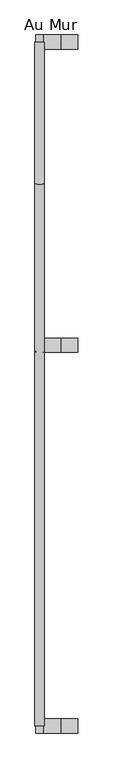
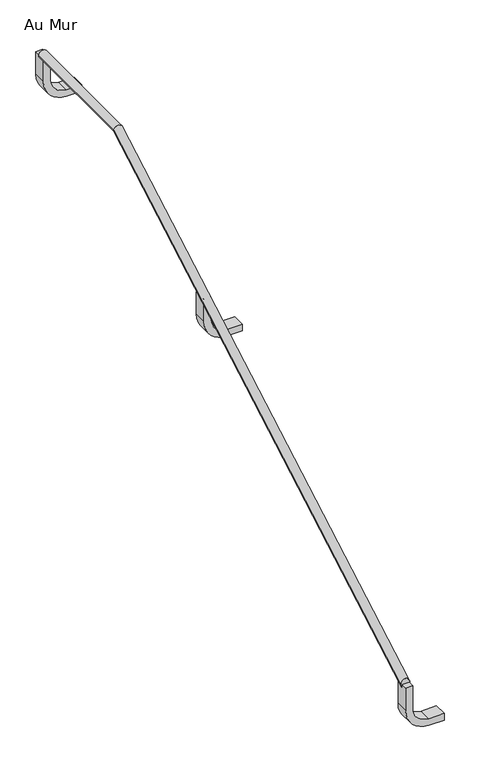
"""IFC4 building model written with IfcOpenShell, lengths in millimetres: railing geometry, Au Mur."""

from ifc_helpers import new_model, si_unit, point, frame, frame_2d, origin, place, context, project, spatial, polyline, circle_curve, ellipse_curve, trimmed, segment, composite_curve, outline, extrude, source, transform, mapped, element, save
from ifc_brep_helpers import plane_surface, cylinder_surface, advanced_brep


def au_mur_6df926ba(model_context):
    return source(origin(), model_context, "Body", "SolidModel", [
        advanced_brep(
        [(11893.2466393, 1042.0685723, 3208.5714286), (11913.2466393, 1042.0685723, 3208.5714286), (11893.2466393, 2182.0685723, 3860.0), (11913.2466393, 2182.0685723, 3860.0), (11893.2466393, 2479.124191, 3860.0), (11913.2466393, 2479.124191, 3860.0)],
        [
            (0, 1, ellipse_curve(frame((11903.2466393, 1042.0685723, 3208.5714286), z_axis=(0.0, -1.0, 0.0), x_axis=(0.0, 0.0, -1.0)), 11.5175111, 10.0)),
            (1, 0, ellipse_curve(frame((11903.2466393, 1042.0685723, 3208.5714286), z_axis=(0.0, -1.0, 0.0), x_axis=(0.0, 0.0, -1.0)), 11.5175111, 10.0)),
            (0, 2),
            (2, 3, ellipse_curve(frame((11903.2466393, 2182.0685723, 3860.0), z_axis=(0.0, -0.9664996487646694, -0.2566679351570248), x_axis=(0.0, 0.256667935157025, -0.9664996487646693)), 10.3466152, 10.0)),
            (3, 1),
            (3, 2, ellipse_curve(frame((11903.2466393, 2182.0685723, 3860.0), z_axis=(0.0, -0.9664996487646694, -0.2566679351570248), x_axis=(0.0, 0.256667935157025, -0.9664996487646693)), 10.3466152, 10.0)),
            (4, 5, circle_curve(frame((11903.2466393, 2479.124191, 3860.0), z_axis=(0.0, 1.0, 0.0), x_axis=(1.0, 0.0, 0.0)), 10.0)),
            (5, 4, circle_curve(frame((11903.2466393, 2479.124191, 3860.0), z_axis=(0.0, 1.0, 0.0), x_axis=(1.0, 0.0, 0.0)), 10.0)),
            (2, 4),
            (5, 3),
        ],
        [
            plane_surface(frame((11903.2466393, 1042.0685723, 3208.5714286), z_axis=(0.0, -1.0, 0.0), x_axis=(0.0, 0.0, 1.0))),
            cylinder_surface(frame((11903.2466393, 1042.0685723, 3208.5714286), z_axis=(0.0, -0.8682431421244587, -0.4961389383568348), x_axis=(1.0, 0.0, 0.0)), 10.0),
            plane_surface(frame((11903.2466393, 2479.124191, 3860.0), z_axis=(0.0, 1.0, 0.0), x_axis=(0.0, 0.0, 1.0))),
            cylinder_surface(frame((11903.2466393, 2182.0685723, 3860.0), z_axis=(0.0, -1.0, 0.0), x_axis=(1.0, 0.0, 0.0)), 10.0),
        ],
        [
            (0, [[1, 2]]),
            (1, [[-1, 3, 4, 5]]),
            (1, [[-2, -5, 6, -3]]),
            (2, [[7, 8]]),
            (3, [[-4, 9, -8, 10]]),
            (3, [[-6, -10, -7, -9]]),
        ],
    ),
        extrude(outline(composite_curve([segment(polyline([(3557.7142857, 11983.2466393), (3573.7142857, 11983.2466393), (3573.7142857, 11948.2466393)]), True, "CONTINUOUS"), segment(trimmed(circle_curve(frame_2d((3610.7142857, 11948.2466393)), 37.0), [point((3573.7142857, 11948.2466393))], [point((3610.7142857, 11911.2466393))], True, "CARTESIAN"), True, "CONTINUOUS"), segment(polyline([(3610.7142857, 11911.2466393), (3665.7142857, 11911.2466393), (3665.7142857, 11895.2466393), (3610.7142857, 11895.2466393)]), True, "CONTINUOUS"), segment(trimmed(circle_curve(frame_2d((3610.7142857, 11948.2466393)), 53.0), [point((3610.7142857, 11895.2466393))], [point((3557.7142857, 11948.2466393))], False, "CARTESIAN"), True, "CONTINUOUS"), segment(polyline([(3557.7142857, 11948.2466393), (3557.7142857, 11983.2466393)]), True, "CONTINUOUS")], self_intersect=False)), frame((0.0, 1827.0685723, 0.0), z_axis=(0.0, 1.0, 0.0), x_axis=(0.0, 0.0, 1.0)), (0.0, 0.0, 1.0), 30.0),
        extrude(outline(composite_curve([segment(polyline([(3752.0, 11983.2466393), (3768.0, 11983.2466393), (3768.0, 11948.2466393)]), True, "CONTINUOUS"), segment(trimmed(circle_curve(frame_2d((3805.0, 11948.2466393)), 37.0), [point((3768.0, 11948.2466393))], [point((3805.0, 11911.2466393))], True, "CARTESIAN"), True, "CONTINUOUS"), segment(polyline([(3805.0, 11911.2466393), (3860.0, 11911.2466393), (3860.0, 11895.2466393), (3805.0, 11895.2466393)]), True, "CONTINUOUS"), segment(trimmed(circle_curve(frame_2d((3805.0, 11948.2466393)), 53.0), [point((3805.0, 11895.2466393))], [point((3752.0, 11948.2466393))], False, "CARTESIAN"), True, "CONTINUOUS"), segment(polyline([(3752.0, 11948.2466393), (3752.0, 11983.2466393)]), True, "CONTINUOUS")], self_intersect=False)), frame((0.0, 2464.124191, 0.0), z_axis=(0.0, 1.0, 0.0), x_axis=(0.0, 0.0, 1.0)), (0.0, 0.0, 1.0), 30.0),
        extrude(outline(composite_curve([segment(polyline([(3100.5714286, 11983.2466393), (3116.5714286, 11983.2466393), (3116.5714286, 11948.2466393)]), True, "CONTINUOUS"), segment(trimmed(circle_curve(frame_2d((3153.5714286, 11948.2466393)), 37.0), [point((3116.5714286, 11948.2466393))], [point((3153.5714286, 11911.2466393))], True, "CARTESIAN"), True, "CONTINUOUS"), segment(polyline([(3153.5714286, 11911.2466393), (3208.5714286, 11911.2466393), (3208.5714286, 11895.2466393), (3153.5714286, 11895.2466393)]), True, "CONTINUOUS"), segment(trimmed(circle_curve(frame_2d((3153.5714286, 11948.2466393)), 53.0), [point((3153.5714286, 11895.2466393))], [point((3100.5714286, 11948.2466393))], False, "CARTESIAN"), True, "CONTINUOUS"), segment(polyline([(3100.5714286, 11948.2466393), (3100.5714286, 11983.2466393)]), True, "CONTINUOUS")], self_intersect=False)), frame((0.0, 1027.0685723, 0.0), z_axis=(0.0, 1.0, 0.0), x_axis=(0.0, 0.0, 1.0)), (0.0, 0.0, 1.0), 30.0),
    ])


if __name__ == "__main__":
    model = new_model("IFC4")
    model_context = context("Model", 3, world=origin())
    ifc_project = project(units=[si_unit("LENGTHUNIT", "METRE", prefix="MILLI")], contexts=[model_context])
    site = spatial("IfcSite", under=ifc_project)
    building = spatial("IfcBuilding", under=site)
    placement = place(None, origin())
    au_mur_shape = au_mur_6df926ba(model_context)
    element("IfcRailing", 1, ObjectType="Au Mur", at=placement, inside=building, context=model_context, shape_type="MappedRepresentation", body=[
        mapped(au_mur_shape, transform((0.0, 0.0, 0.0), x_axis=(1.0, 0.0, 0.0), y_axis=(0.0, 1.0, 0.0), z_axis=(0.0, 0.0, 1.0))),
    ])
    save(model, "model.ifc")
